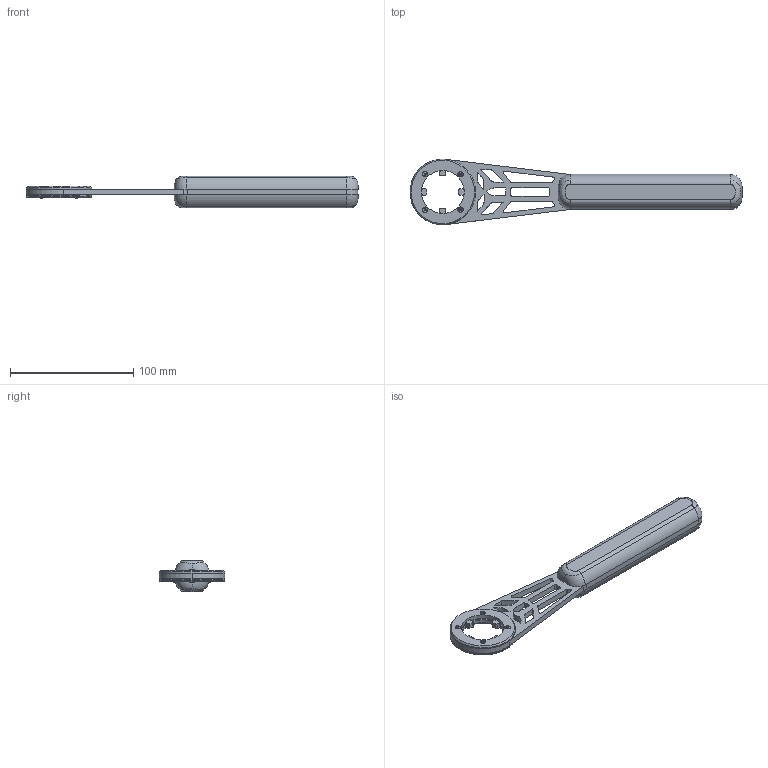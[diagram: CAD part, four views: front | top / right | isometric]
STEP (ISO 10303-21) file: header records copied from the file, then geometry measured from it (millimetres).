
FILE_DESCRIPTION (( 'STEP AP214' ), '1' );
FILE_NAME ('WW-BARREL-NUT-HAND-TOOL-ASSEMBLY.STEP', '2024-02-26T14:50:39', ( '' ), ( '' ), 'SwSTEP 2.0', 'SolidWorks 2022', '' );
FILE_SCHEMA (( 'AUTOMOTIVE_DESIGN' ));
Length unit declared in the file: inch
Products named in the file (10): MA-16820-TOOL-GRIPA_Hand Tool; MA-16820-TOOL-BUSHINGS; MA-16820  BARREL NUT 061119_Hand Tool Post Machining; MA-16820-TOOL-GRIPB_Hand Tool; MA-16820-TOOL-GRIPS; MA-16820-TOOL-BUSHINGA_Hand Tool; MA-16820-TOOL-BUSHINGB_Hand Tool; 95893A621_Flat Head Thread-Forming Screws for Plastic_95893A621; 99512A672_Torx Rounded Head Thread-Forming Screws_99512A672; WW-BARREL-NUT-HAND-TOOL-ASSEMBLY
Assembly tree (14 placements, depth 3):
  WW-BARREL-NUT-HAND-TOOL-ASSEMBLY
    MA-16820  BARREL NUT 061119_Hand Tool Post Machining
    MA-16820-TOOL-BUSHINGS
      MA-16820-TOOL-BUSHINGA_Hand Tool
      MA-16820-TOOL-BUSHINGB_Hand Tool
    95893A621_Flat Head Thread-Forming Screws for Plastic_95893A621  x4
    MA-16820-TOOL-GRIPS
      MA-16820-TOOL-GRIPA_Hand Tool
      MA-16820-TOOL-GRIPB_Hand Tool
    99512A672_Torx Rounded Head Thread-Forming Screws_99512A672  x3
Bounding box: 269.09 x 53.14 x 25.37 mm (x, y, z)
Volume: 111770.7 mm3; surface area: 50507 mm2
Topology: 12 solids, 12 shells, 1310 faces, 3564 edges, 2296 vertices
Faces by surface type: cylinder 872, torus 134, cone 132, plane 121, bspline 41, sphere 10
Entity records: 29617 total; most frequent: CARTESIAN_POINT 11413, ORIENTED_EDGE 3818, DIRECTION 3756, EDGE_CURVE 1909, AXIS2_PLACEMENT_3D 1554, VERTEX_POINT 1216, CIRCLE 836, EDGE_LOOP 787
